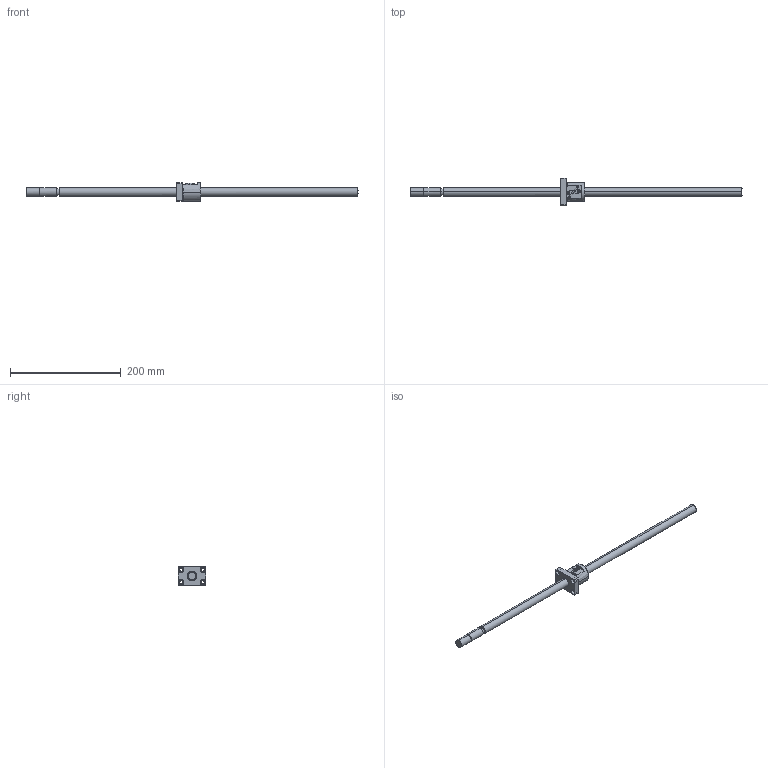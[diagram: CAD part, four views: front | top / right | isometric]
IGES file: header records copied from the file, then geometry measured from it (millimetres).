
Global section: file name: No Iges File Name specified; native system: AutoDesk Inventor R10; preprocessor: AutoDesk Inventor Iges Exporter R10; author: No Author specified; organization: No Organization specified; date: 20101224.140437; units: millimetre
Bounding box: 600 x 50 x 34 mm (x, y, z)
Surface area: 40373 mm2 (no closed solid volume)
Topology: 0 solids, 0 shells, 133 faces, 974 edges, 974 vertices
Faces by surface type: bspline 133
